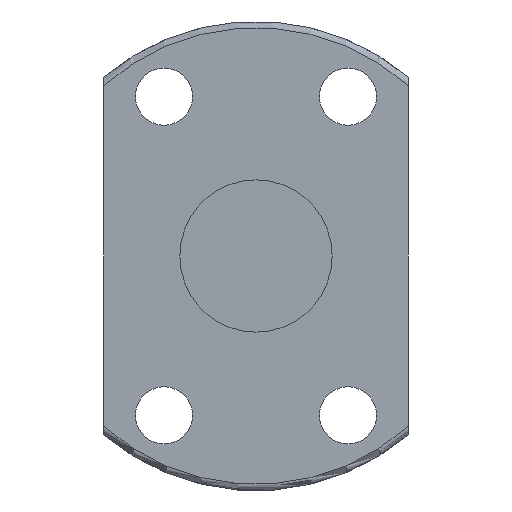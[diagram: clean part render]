
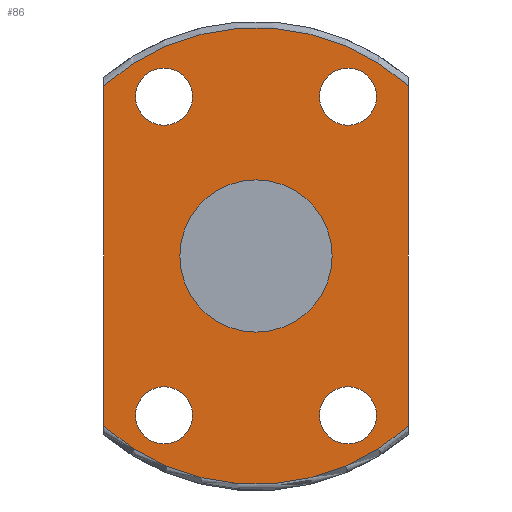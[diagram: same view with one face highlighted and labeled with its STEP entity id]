
A CAD part, front view. The second image highlights one B-rep face of the part: STEP entity #86.
In plain terms, the highlighted planar face has unit normal (0, -1, 0).
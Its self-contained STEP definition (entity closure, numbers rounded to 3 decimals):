
#86=ADVANCED_FACE('',(#132,#133,#134,#135,#136),#104,.F.);
#104=PLANE('',#369);
#116=LINE('',#528,#124);
#117=LINE('',#533,#125);
#124=VECTOR('',#434,1.);
#125=VECTOR('',#437,1.);
#132=FACE_BOUND('',#159,.T.);
#133=FACE_BOUND('',#160,.T.);
#134=FACE_BOUND('',#161,.T.);
#135=FACE_BOUND('',#162,.T.);
#136=FACE_BOUND('',#163,.T.);
#159=EDGE_LOOP('',(#204));
#160=EDGE_LOOP('',(#205));
#161=EDGE_LOOP('',(#206));
#162=EDGE_LOOP('',(#207));
#163=EDGE_LOOP('',(#208,#209,#210,#211));
#204=ORIENTED_EDGE('',*,*,#307,.F.);
#205=ORIENTED_EDGE('',*,*,#308,.F.);
#206=ORIENTED_EDGE('',*,*,#309,.F.);
#207=ORIENTED_EDGE('',*,*,#310,.F.);
#208=ORIENTED_EDGE('',*,*,#311,.F.);
#209=ORIENTED_EDGE('',*,*,#312,.T.);
#210=ORIENTED_EDGE('',*,*,#313,.T.);
#211=ORIENTED_EDGE('',*,*,#314,.T.);
#278=VERTEX_POINT('',#521);
#279=VERTEX_POINT('',#523);
#280=VERTEX_POINT('',#525);
#281=VERTEX_POINT('',#527);
#282=VERTEX_POINT('',#529);
#283=VERTEX_POINT('',#530);
#284=VERTEX_POINT('',#532);
#285=VERTEX_POINT('',#534);
#307=EDGE_CURVE('',#278,#278,#338,.T.);
#308=EDGE_CURVE('',#279,#279,#339,.T.);
#309=EDGE_CURVE('',#280,#280,#340,.T.);
#310=EDGE_CURVE('',#281,#281,#341,.T.);
#311=EDGE_CURVE('',#282,#283,#116,.T.);
#312=EDGE_CURVE('',#282,#284,#342,.T.);
#313=EDGE_CURVE('',#284,#285,#117,.T.);
#314=EDGE_CURVE('',#285,#283,#343,.T.);
#338=CIRCLE('',#363,2.25);
#339=CIRCLE('',#364,2.25);
#340=CIRCLE('',#365,2.25);
#341=CIRCLE('',#366,2.25);
#342=CIRCLE('',#367,18.);
#343=CIRCLE('',#368,18.);
#363=AXIS2_PLACEMENT_3D('',#520,#426,#427);
#364=AXIS2_PLACEMENT_3D('',#522,#428,#429);
#365=AXIS2_PLACEMENT_3D('',#524,#430,#431);
#366=AXIS2_PLACEMENT_3D('',#526,#432,#433);
#367=AXIS2_PLACEMENT_3D('',#531,#435,#436);
#368=AXIS2_PLACEMENT_3D('',#535,#438,#439);
#369=AXIS2_PLACEMENT_3D('',#536,#440,#441);
#426=DIRECTION('',(0.,-1.,0.));
#427=DIRECTION('',(0.,0.,1.));
#428=DIRECTION('',(0.,-1.,0.));
#429=DIRECTION('',(0.,0.,1.));
#430=DIRECTION('',(0.,-1.,0.));
#431=DIRECTION('',(0.,0.,1.));
#432=DIRECTION('',(0.,-1.,0.));
#433=DIRECTION('',(0.,0.,1.));
#434=DIRECTION('',(0.,0.,1.));
#435=DIRECTION('',(0.,-1.,0.));
#436=DIRECTION('',(0.,0.,1.));
#437=DIRECTION('',(0.,0.,1.));
#438=DIRECTION('',(0.,-1.,0.));
#439=DIRECTION('',(0.,0.,1.));
#440=DIRECTION('',(0.,1.,0.));
#441=DIRECTION('',(0.,0.,1.));
#520=CARTESIAN_POINT('',(7.25,-28.,12.557));
#521=CARTESIAN_POINT('',(7.25,-28.,14.807));
#522=CARTESIAN_POINT('',(-7.25,-28.,12.557));
#523=CARTESIAN_POINT('',(-7.25,-28.,14.807));
#524=CARTESIAN_POINT('',(-7.25,-28.,-12.557));
#525=CARTESIAN_POINT('',(-7.25,-28.,-10.307));
#526=CARTESIAN_POINT('',(7.25,-28.,-12.557));
#527=CARTESIAN_POINT('',(7.25,-28.,-10.307));
#528=CARTESIAN_POINT('',(-12.,-28.,18.5));
#529=CARTESIAN_POINT('',(-12.,-28.,-13.416));
#530=CARTESIAN_POINT('',(-12.,-28.,13.416));
#531=CARTESIAN_POINT('',(0.,-28.,0.));
#532=CARTESIAN_POINT('',(12.,-28.,-13.416));
#533=CARTESIAN_POINT('',(12.,-28.,18.5));
#534=CARTESIAN_POINT('',(12.,-28.,13.416));
#535=CARTESIAN_POINT('',(0.,-28.,0.));
#536=CARTESIAN_POINT('',(0.,-28.,18.5));
